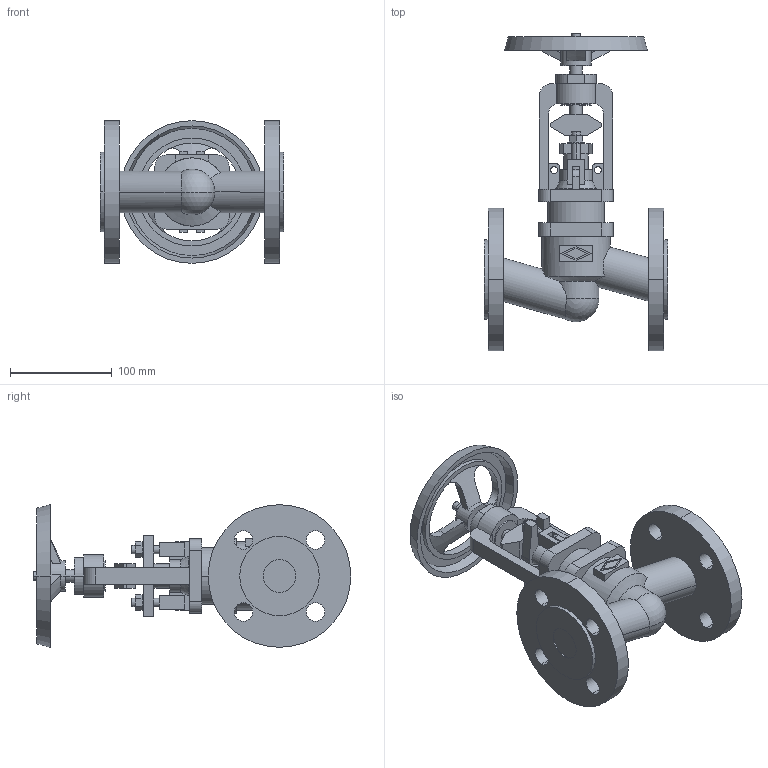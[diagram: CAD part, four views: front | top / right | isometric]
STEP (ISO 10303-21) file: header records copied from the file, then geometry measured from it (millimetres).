
FILE_DESCRIPTION(('OneSpaceDesigner STEP Export'),'2;1');
FILE_NAME('c000003749.stp','2009-06-16T10:58:58',(''),(''),'OneSpace Designer STEP processor for AP214 (Solid Model)','OneSpace Modeling 15.50B 03-Nov-2007 (C) CoCreate Software GmbH','');
FILE_SCHEMA(('AUTOMOTIVE_DESIGN { 1 0 10303 214 1 1 1 1 }'));
Length unit declared in the file: millimetre
Products named in the file (1): 1
Bounding box: 180 x 311.8 x 140 mm (x, y, z)
Volume: 1217177.5 mm3; surface area: 199230.9 mm2
Topology: 1 solids, 1 shells, 283 faces, 739 edges, 484 vertices
Faces by surface type: plane 148, cylinder 109, cone 20, torus 4, sphere 2
Entity records: 10864 total; most frequent: CARTESIAN_POINT 1950, ORIENTED_EDGE 1474, DIRECTION 1241, EDGE_CURVE 737, VERTEX_POINT 484, VECTOR 433, LINE 433, AXIS2_PLACEMENT_3D 404
